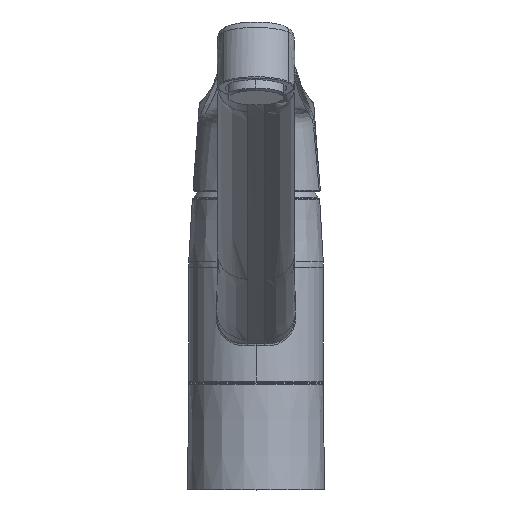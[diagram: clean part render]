
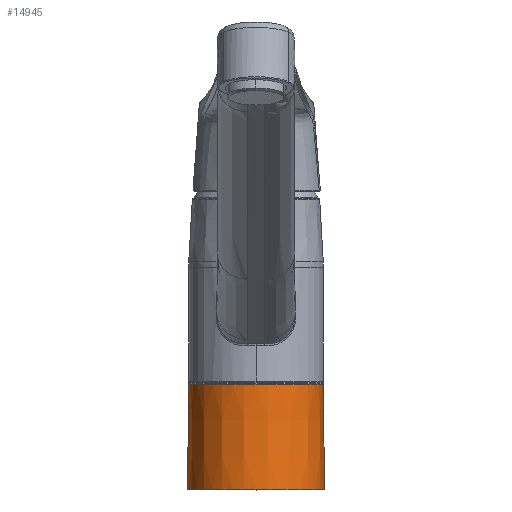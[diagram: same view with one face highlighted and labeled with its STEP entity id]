
A CAD part, top view. The second image highlights one B-rep face of the part: STEP entity #14945.
In plain terms, the highlighted conical face has half-angle 0.5 degrees and reference radius 26.5 mm.
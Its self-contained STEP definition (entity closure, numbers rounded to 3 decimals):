
#752 = CARTESIAN_POINT ( 'NONE',  ( 215.544, 441.376, 403.551 ) ) ;
#1376 = DIRECTION ( 'NONE',  ( 0.009, -1., 0. ) ) ;
#2042 = VERTEX_POINT ( 'NONE', #7416 ) ;
#3549 = LINE ( 'NONE', #752, #9820 ) ;
#4017 = EDGE_CURVE ( 'NONE', #2042, #5505, #3549, .T. ) ;
#4470 = CARTESIAN_POINT ( 'NONE',  ( 162.541, 440.979, 403.551 ) ) ;
#5238 = DIRECTION ( 'NONE',  ( 0., -1., 0. ) ) ;
#5505 = VERTEX_POINT ( 'NONE', #12904 ) ;
#5718 = ORIENTED_EDGE ( 'NONE', *, *, #7942, .T. ) ;
#6498 = CARTESIAN_POINT ( 'NONE',  ( 189.044, 441.376, 403.551 ) ) ;
#6503 = AXIS2_PLACEMENT_3D ( 'NONE', #19330, #7372, #21300 ) ;
#7372 = DIRECTION ( 'NONE',  ( 0., -1., 0. ) ) ;
#7416 = CARTESIAN_POINT ( 'NONE',  ( 215.548, 440.979, 403.551 ) ) ;
#7942 = EDGE_CURVE ( 'NONE', #16801, #24566, #12939, .T. ) ;
#8506 = DIRECTION ( 'NONE',  ( 1., 0., 0. ) ) ;
#9820 = VECTOR ( 'NONE', #1376, 1000. ) ;
#11507 = EDGE_CURVE ( 'NONE', #2042, #16801, #25707, .T. ) ;
#11693 = VECTOR ( 'NONE', #22852, 1000. ) ;
#12175 = EDGE_LOOP ( 'NONE', ( #16717, #5718, #13845, #17460 ) ) ;
#12904 = CARTESIAN_POINT ( 'NONE',  ( 215.909, 399.576, 403.551 ) ) ;
#12939 = LINE ( 'NONE', #14902, #11693 ) ;
#13845 = ORIENTED_EDGE ( 'NONE', *, *, #24950, .F. ) ;
#14902 = CARTESIAN_POINT ( 'NONE',  ( 162.544, 441.376, 403.551 ) ) ;
#14945 = ADVANCED_FACE ( 'NONE', ( #25400 ), #24137, .T. ) ;
#15403 = AXIS2_PLACEMENT_3D ( 'NONE', #6498, #20431, #8506 ) ;
#16717 = ORIENTED_EDGE ( 'NONE', *, *, #11507, .T. ) ;
#16801 = VERTEX_POINT ( 'NONE', #4470 ) ;
#17212 = CARTESIAN_POINT ( 'NONE',  ( 189.044, 440.979, 403.551 ) ) ;
#17460 = ORIENTED_EDGE ( 'NONE', *, *, #4017, .F. ) ;
#18785 = CIRCLE ( 'NONE', #6503, 26.865 ) ;
#19208 = DIRECTION ( 'NONE',  ( 1., 0., 0. ) ) ;
#19330 = CARTESIAN_POINT ( 'NONE',  ( 189.044, 399.576, 403.551 ) ) ;
#20425 = CARTESIAN_POINT ( 'NONE',  ( 162.18, 399.576, 403.551 ) ) ;
#20431 = DIRECTION ( 'NONE',  ( 0., -1., 0. ) ) ;
#20838 = AXIS2_PLACEMENT_3D ( 'NONE', #17212, #5238, #19208 ) ;
#21300 = DIRECTION ( 'NONE',  ( -1., 0., 0. ) ) ;
#22852 = DIRECTION ( 'NONE',  ( -0.009, -1., 0. ) ) ;
#24137 = CONICAL_SURFACE ( 'NONE', #15403, 26.5, 0.009 ) ;
#24566 = VERTEX_POINT ( 'NONE', #20425 ) ;
#24950 = EDGE_CURVE ( 'NONE', #5505, #24566, #18785, .T. ) ;
#25400 = FACE_OUTER_BOUND ( 'NONE', #12175, .T. ) ;
#25707 = CIRCLE ( 'NONE', #20838, 26.503 ) ;
